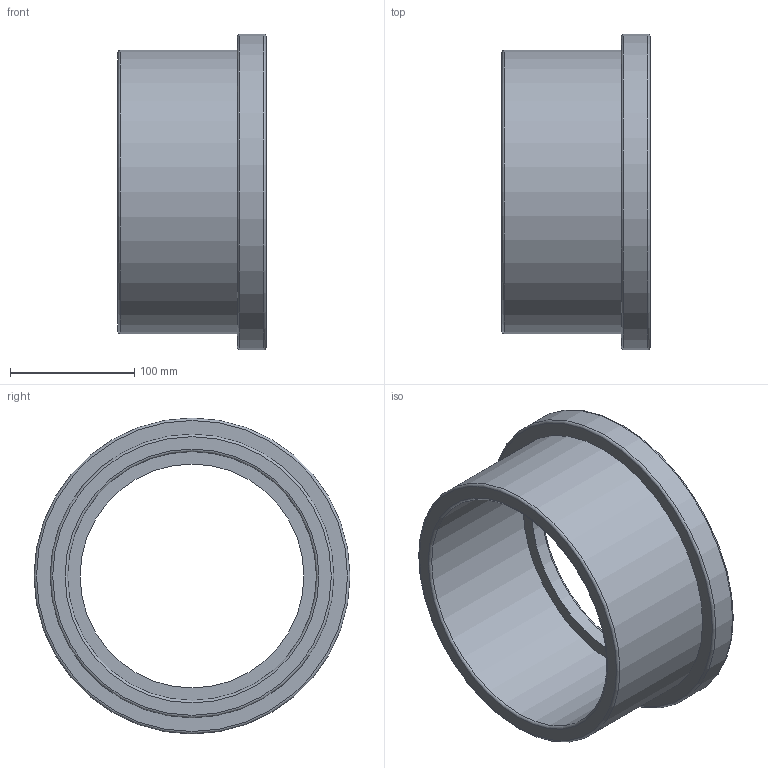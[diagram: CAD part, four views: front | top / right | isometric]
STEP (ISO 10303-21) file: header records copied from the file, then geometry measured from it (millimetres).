
FILE_DESCRIPTION(/* description */ ('PLASSON FLANGE AD.+O-RING-CE 200'),/* implementation_level */ '2;1');
FILE_NAME(/* name */ 'C:\Dropbox\KIMPROJECTS-Inventor\99-16-3568-Processing\PVC Catalog 2017\055000\055000200.ipt.stp',/* time_stamp */ '2017-12-07T16:04:47+02:00',/* author */ ('KIM'),/* organization */ (''),/* preprocessor_version */ 'ST-DEVELOPER v15.6',/* originating_system */ 'Autodesk Inventor 2015',/* authorisation */ '');
FILE_SCHEMA (('AUTOMOTIVE_DESIGN { 1 0 10303 214 3 1 1 }'));
Length unit declared in the file: millimetre
Products named in the file (1): 055000200
Bounding box: 119 x 254 x 254 mm (x, y, z)
Volume: 1368810 mm3; surface area: 215572.8 mm2
Topology: 1 solids, 1 shells, 21 faces, 36 edges, 21 vertices
Faces by surface type: torus 9, plane 6, cylinder 6
Full cylindrical faces by diameter (mm): 180 x1, 200 x1, 205.9 x1, 228 x1, 228.1 x1, 254 x1
Entity records: 452 total; most frequent: DIRECTION 86, CARTESIAN_POINT 64, AXIS2_PLACEMENT_3D 43, EDGE_LOOP 42, ORIENTED_EDGE 42, FACE_BOUND 21, FACE_OUTER_BOUND 21, CIRCLE 21
